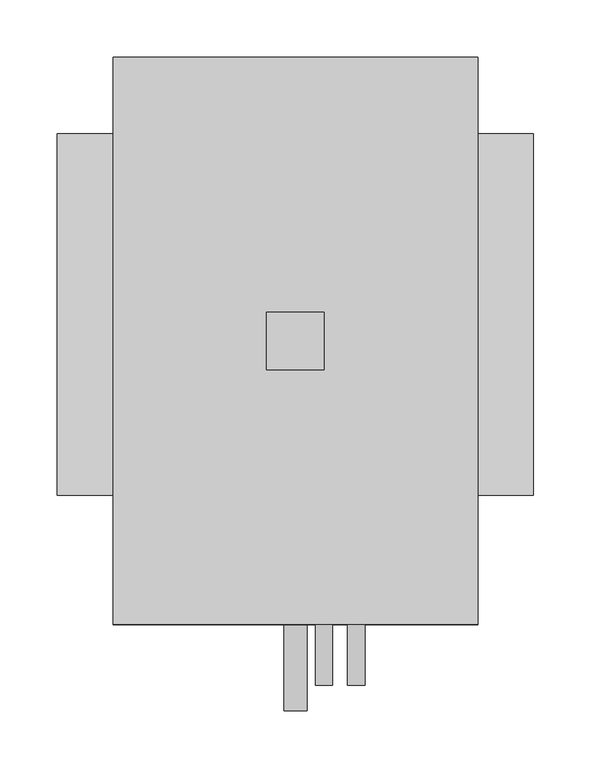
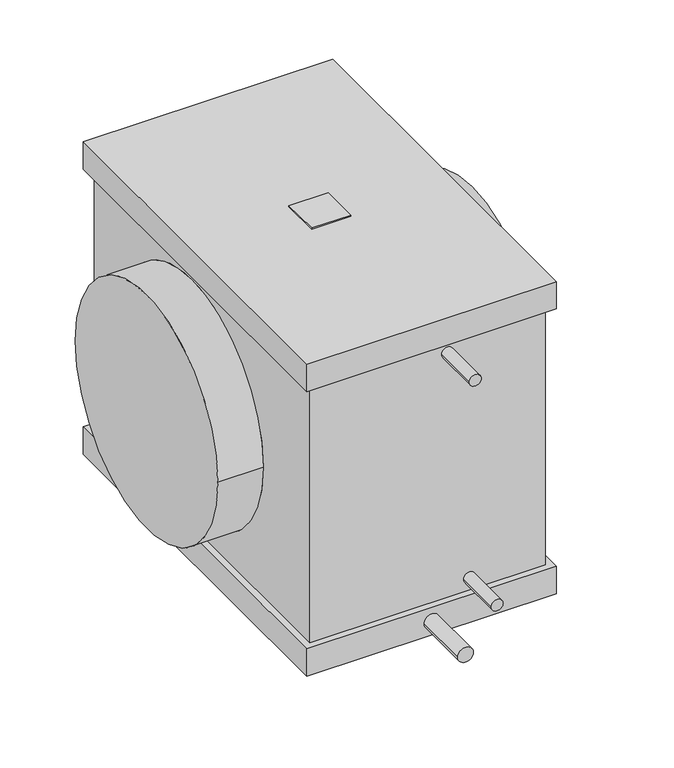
"""IFC4 building model written with IfcOpenShell, lengths in millimetres: proxy geometry, KORF_Охладитель_Водяной_Круглый_Левый_KWLO : KWLO 315/2."""

from ifc_helpers import new_model, si_unit, point, frame, frame_2d, origin, place, context, project, spatial, polyline, circle_curve, trimmed, segment, composite_curve, outline, extrude, source, transform, mapped, element, save
from ifc_brep_helpers import plane_surface, cylinder_surface, advanced_brep


def mechanical_equipment_6653e10a(model_context):
    return source(origin(), model_context, "Body", "SolidModel", [
        extrude(outline(polyline([(232.5, 2.0), (232.5, -48.0), (182.5, -48.0), (182.5, 2.0), (232.5, 2.0)])), frame((0.0, 0.0, 210.5), z_axis=(0.0, 0.0, 1.0), x_axis=(1.0, 0.0, 0.0)), (0.0, 0.0, 1.0), 2.0),
        advanced_brep(
        [(415.0, -157.5, 0.0), (415.0, 157.5, 0.0), (0.0, -157.5, 0.0), (0.0, 157.5, 0.0), (357.5, -157.5, 0.0), (357.5, 157.5, 0.0), (57.5, 157.5, 0.0), (57.5, -157.5, 0.0), (357.5, -261.0, -173.5), (357.5, 215.0, -173.5), (357.5, 215.0, 173.5), (357.5, -261.0, 173.5), (57.5, 215.0, -173.5), (57.5, -261.0, -173.5), (57.5, -261.0, 173.5), (57.5, 215.0, 173.5), (366.5, 224.0, -210.5), (366.5, -270.0, -210.5), (48.5, -270.0, -210.5), (48.5, 224.0, -210.5), (366.5, -270.0, 210.5), (366.5, 224.0, 210.5), (48.5, 224.0, 210.5), (48.5, -270.0, 210.5), (366.5, 224.0, -173.5), (366.5, -270.0, -173.5), (48.5, -270.0, -173.5), (48.5, 224.0, -173.5), (366.5, 224.0, 173.5), (366.5, -270.0, 173.5), (48.5, -270.0, 173.5), (48.5, 224.0, 173.5)],
        [
            (0, 1, circle_curve(frame((415.0, 0.0, 0.0), z_axis=(1.0, 0.0, 0.0), x_axis=(0.0, 1.0, 0.0)), 157.5)),
            (1, 0, circle_curve(frame((415.0, 0.0, 0.0), z_axis=(1.0, 0.0, 0.0), x_axis=(0.0, 1.0, 0.0)), 157.5)),
            (2, 3, circle_curve(frame((0.0, 0.0, 0.0), z_axis=(-1.0, 0.0, 0.0), x_axis=(0.0, 1.0, 0.0)), 157.5)),
            (3, 2, circle_curve(frame((0.0, 0.0, 0.0), z_axis=(-1.0, 0.0, 0.0), x_axis=(0.0, 1.0, 0.0)), 157.5)),
            (0, 4),
            (4, 5, circle_curve(frame((357.5, 0.0, 0.0), z_axis=(1.0, 0.0, 0.0), x_axis=(0.0, 1.0, 0.0)), 157.5)),
            (5, 1),
            (3, 6),
            (6, 7, circle_curve(frame((57.5, 0.0, 0.0), z_axis=(-1.0, 0.0, 0.0), x_axis=(0.0, 1.0, 0.0)), 157.5)),
            (7, 2),
            (5, 4, circle_curve(frame((357.5, 0.0, 0.0), z_axis=(1.0, 0.0, 0.0), x_axis=(0.0, 1.0, 0.0)), 157.5)),
            (7, 6, circle_curve(frame((57.5, 0.0, 0.0), z_axis=(-1.0, 0.0, 0.0), x_axis=(0.0, 1.0, 0.0)), 157.5)),
            (8, 9),
            (9, 10),
            (10, 11),
            (11, 8),
            (12, 13),
            (13, 14),
            (14, 15),
            (15, 12),
            (13, 8),
            (11, 14),
            (16, 17),
            (17, 18),
            (18, 19),
            (19, 16),
            (9, 12),
            (15, 10),
            (20, 21),
            (21, 22),
            (22, 23),
            (23, 20),
            (16, 24),
            (24, 25),
            (25, 17),
            (25, 26),
            (26, 18),
            (26, 27),
            (27, 19),
            (24, 27),
            (28, 21),
            (20, 29),
            (29, 28),
            (23, 30),
            (30, 29),
            (22, 31),
            (31, 30),
            (28, 31),
        ],
        [
            plane_surface(frame((415.0, 157.5, 0.0), z_axis=(1.0, 0.0, 0.0), x_axis=(0.0, 0.0, 1.0))),
            plane_surface(frame((0.0, 157.5, 0.0), z_axis=(-1.0, 0.0, 0.0), x_axis=(0.0, 0.0, -1.0))),
            cylinder_surface(frame((0.0, 0.0, 0.0), z_axis=(1.0, 0.0, 0.0), x_axis=(0.0, 1.0, 0.0)), 157.5),
            plane_surface(frame((357.5, -261.0, 210.5), z_axis=(1.0, 0.0, 0.0), x_axis=(0.0, 0.0, -1.0))),
            plane_surface(frame((57.5, -261.0, 210.5), z_axis=(-1.0, 0.0, 0.0), x_axis=(0.0, 0.0, 1.0))),
            plane_surface(frame((357.5, -261.0, 210.5), z_axis=(0.0, -1.0, 0.0), x_axis=(-1.0, 0.0, 0.0))),
            plane_surface(frame((357.5, -261.0, -210.5), z_axis=(0.0, 0.0, -1.0), x_axis=(-1.0, 0.0, 0.0))),
            plane_surface(frame((357.5, 215.0, -210.5), z_axis=(0.0, 1.0, 0.0), x_axis=(-1.0, 0.0, 0.0))),
            plane_surface(frame((357.5, 215.0, 210.5), z_axis=(0.0, 0.0, 1.0), x_axis=(-1.0, 0.0, 0.0))),
            plane_surface(frame((366.5, 224.0, -173.5), z_axis=(1.0, 0.0, 0.0), x_axis=(0.0, -1.0, 0.0))),
            plane_surface(frame((366.5, -270.0, -173.5), z_axis=(0.0, -1.0, 0.0), x_axis=(-1.0, 0.0, 0.0))),
            plane_surface(frame((48.5, -270.0, -173.5), z_axis=(-1.0, 0.0, 0.0), x_axis=(0.0, 1.0, 0.0))),
            plane_surface(frame((57.5, 215.0, -173.5), z_axis=(0.0, 0.0, 1.0), x_axis=(1.0, 0.0, 0.0))),
            plane_surface(frame((48.5, 224.0, -173.5), z_axis=(0.0, 1.0, 0.0), x_axis=(1.0, 0.0, 0.0))),
            plane_surface(frame((366.5, 224.0, 210.5), z_axis=(1.0, 0.0, 0.0), x_axis=(0.0, -1.0, 0.0))),
            plane_surface(frame((366.5, -270.0, 210.5), z_axis=(0.0, -1.0, 0.0), x_axis=(-1.0, 0.0, 0.0))),
            plane_surface(frame((48.5, -270.0, 210.5), z_axis=(-1.0, 0.0, 0.0), x_axis=(0.0, 1.0, 0.0))),
            plane_surface(frame((48.5, 224.0, 210.5), z_axis=(0.0, 1.0, 0.0), x_axis=(1.0, 0.0, 0.0))),
            plane_surface(frame((48.5, 224.0, 173.5), z_axis=(0.0, 0.0, -1.0), x_axis=(1.0, 0.0, 0.0))),
        ],
        [
            (0, [[1, 2]]),
            (1, [[3, 4]]),
            (2, [[-1, 5, 6, 7]]),
            (2, [[-4, 8, 9, 10]]),
            (2, [[-2, -7, 11, -5]]),
            (2, [[-3, -10, 12, -8]]),
            (3, [[13, 14, 15, 16], [-6, -11]]),
            (4, [[17, 18, 19, 20], [-9, -12]]),
            (5, [[21, -16, 22, -18]]),
            (6, [[23, 24, 25, 26]]),
            (7, [[27, -20, 28, -14]]),
            (8, [[29, 30, 31, 32]]),
            (9, [[33, 34, 35, -23]]),
            (10, [[-35, 36, 37, -24]]),
            (11, [[-37, 38, 39, -25]]),
            (12, [[-34, 40, -38, -36], [-13, -21, -17, -27]]),
            (13, [[-33, -26, -39, -40]]),
            (14, [[41, -29, 42, 43]]),
            (15, [[-42, -32, 44, 45]]),
            (16, [[-44, -31, 46, 47]]),
            (17, [[-41, 48, -46, -30]]),
            (18, [[-43, -45, -47, -48], [-15, -28, -19, -22]]),
        ],
    ),
        extrude(outline(composite_curve([segment(trimmed(circle_curve(frame_2d((-156.5, 260.5)), 7.5), [point((-156.5, 253.0))], [point((-156.5, 268.0))], False, "CARTESIAN"), True, "CONTINUOUS"), segment(trimmed(circle_curve(frame_2d((-156.5, 260.5)), 7.5), [point((-156.5, 268.0))], [point((-156.5, 253.0))], False, "CARTESIAN"), True, "CONTINUOUS")], self_intersect=False)), frame((0.0, -323.0, 0.0), z_axis=(0.0, 1.0, 0.0), x_axis=(0.0, 0.0, 1.0)), (0.0, 0.0, 1.0), 62.0),
        extrude(outline(composite_curve([segment(trimmed(circle_curve(frame_2d((156.5, 232.5)), 7.5), [point((156.5, 225.0))], [point((156.5, 240.0))], False, "CARTESIAN"), True, "CONTINUOUS"), segment(trimmed(circle_curve(frame_2d((156.5, 232.5)), 7.5), [point((156.5, 240.0))], [point((156.5, 225.0))], False, "CARTESIAN"), True, "CONTINUOUS")], self_intersect=False)), frame((0.0, -323.0, 0.0), z_axis=(0.0, 1.0, 0.0), x_axis=(0.0, 0.0, 1.0)), (0.0, 0.0, 1.0), 62.0),
        extrude(outline(composite_curve([segment(trimmed(circle_curve(frame_2d((-191.5, 207.5)), 10.0), [point((-191.5, 197.5))], [point((-191.5, 217.5))], False, "CARTESIAN"), True, "CONTINUOUS"), segment(trimmed(circle_curve(frame_2d((-191.5, 207.5)), 10.0), [point((-191.5, 217.5))], [point((-191.5, 197.5))], False, "CARTESIAN"), True, "CONTINUOUS")], self_intersect=False)), frame((0.0, -345.0, 0.0), z_axis=(0.0, 1.0, 0.0), x_axis=(0.0, 0.0, 1.0)), (0.0, 0.0, 1.0), 75.0),
    ])


if __name__ == "__main__":
    model = new_model("IFC4")
    model_context = context("Model", 3, world=origin())
    ifc_project = project(units=[si_unit("LENGTHUNIT", "METRE", prefix="MILLI")], contexts=[model_context])
    site = spatial("IfcSite", under=ifc_project)
    building = spatial("IfcBuilding", under=site)
    placement = place(None, origin())
    mechanical_equipment_shape = mechanical_equipment_6653e10a(model_context)
    element("IfcBuildingElementProxy", 1, Name="KORF_Охладитель_Водяной_Круглый_Левый_KWLO : KWLO 315/2", ObjectType="KORF_Охладитель_Водяной_Круглый_Левый_KWLO : KWLO 315/2", at=placement, inside=building, context=model_context, shape_type="MappedRepresentation", body=[
        mapped(mechanical_equipment_shape, transform((0.0, 0.0, 0.0), x_axis=(1.0, 0.0, 0.0), y_axis=(0.0, 1.0, 0.0), z_axis=(0.0, 0.0, 1.0))),
    ])
    save(model, "model.ifc")
